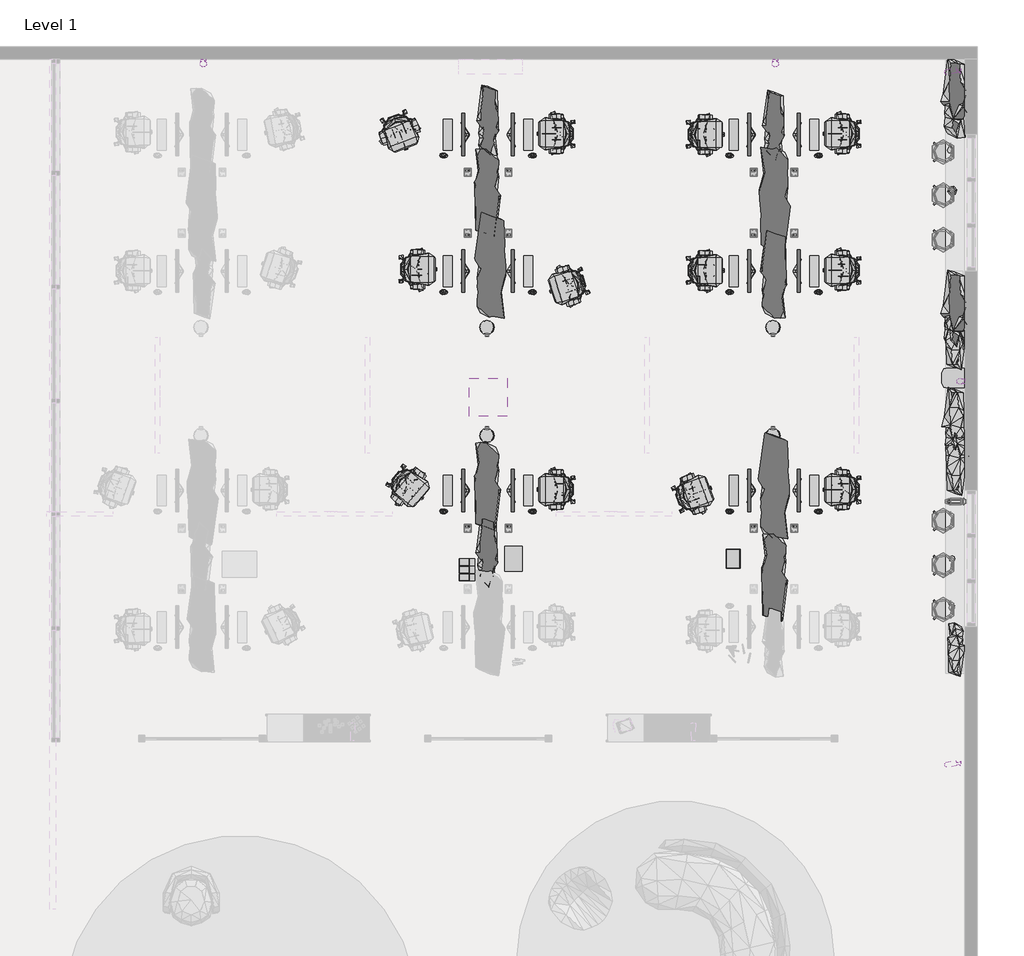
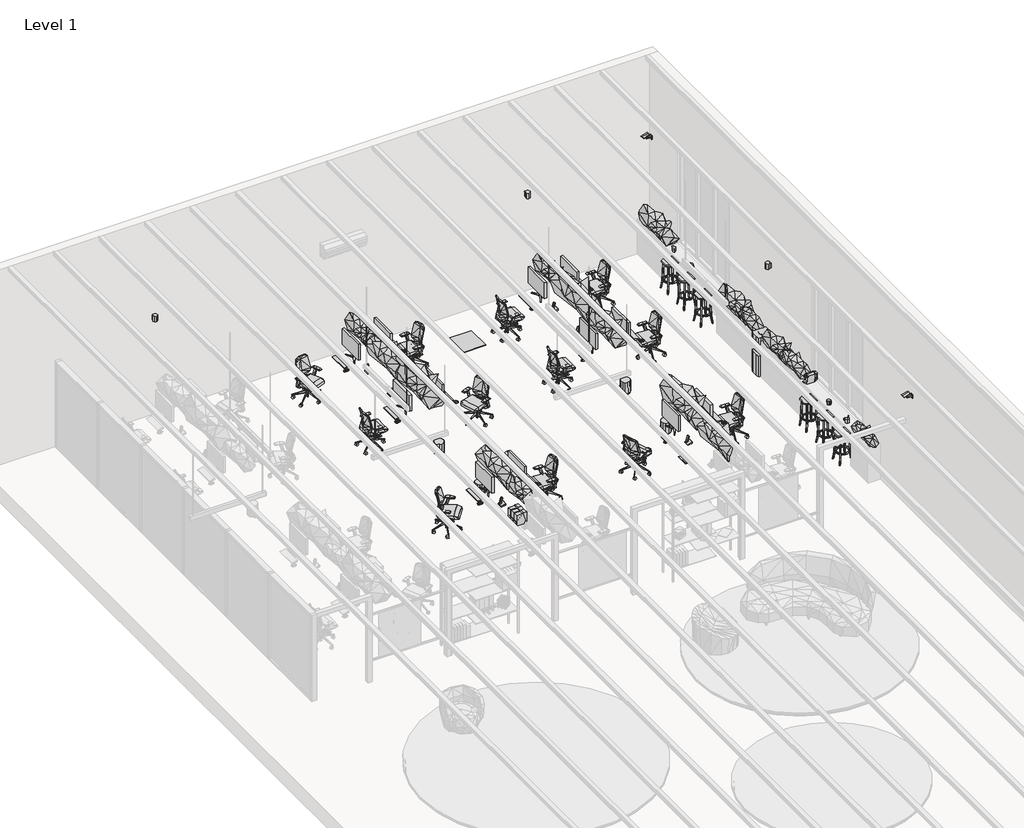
# One storey, part 6 of 6: 79 geographic elements.
"""IFC4 building model written with IfcOpenShell, lengths in millimetres."""

from ifc_helpers import new_model, si_unit, origin, place, context, project, spatial, transform, mapped, element, save
from components import geographic_element_1c3b3942, geographic_element_73b1dc01, geographic_element_349b45b4, geographic_element_266ae1ca, geographic_element_bfbed8a8, geographic_element_5cff998a, geographic_element_8b341069, geographic_element_d4e18414, geographic_element_a34aaa63, geographic_element_61e69f08, enscape_assetdefinition_air_conditioner_001_enscape_db724180, enscape_assetdefinition_coffee_maker_008_enscape_c59bbcd4, enscape_assetdefinition_computer_003_enscape_assetdefinition_33cd5614, enscape_assetdefinition_computer_003_enscape_assetdefinition_0dfb8451, enscape_assetdefinition_copy_machine_002_enscape_0f0c522b, enscape_assetdefinition_cup_001_enscape_assetdefinition_cup_e3f5b286, enscape_assetdefinition_cup_002_coffee_enscape_aa947409, enscape_assetdefinition_cup_003_enscape_assetdefinition_cup_932f1833, enscape_assetdefinition_high_stool_013_enscape_60fb523d, enscape_assetdefinition_office_chair_008_enscape_9297afb8, enscape_assetdefinition_security_camera_003_enscape_78e4a898, enscape_assetdefinition_telephone_002_enscape_9aaeaa57, enscape_assetdefinition_telephone_002_enscape_e00bfed8, enscape_assetdefinition_wall_lamp_005_enscape_8ec44021, enscape_assetdefinition_water_dispenser_001_enscape_70096ad3

model = new_model("IFC4")

# Units and contexts
model_context = context("Model", 3, world=origin())
ifc_project = project(units=[si_unit("LENGTHUNIT", "METRE", prefix="MILLI")], contexts=[model_context])

# Site, building, storey
site = spatial("IfcSite", under=ifc_project)
building = spatial("IfcBuilding", under=site)
storey = spatial("IfcBuildingStorey", under=building, Name="Level 1", Elevation=0.0)

# Geographic elements
placement = place(None, origin())
geographic_element_shape = geographic_element_1c3b3942(model_context)
element("IfcGeographicElement", 1, ObjectType="Enscape AssetDefinition - Clipboard 001 : Enscape AssetDefinition - Clipboard 001", at=placement, inside=storey, context=model_context, shape_type="MappedRepresentation", body=[
    mapped(geographic_element_shape, transform((21499.7422419, 8348.1135808, 700.0), x_axis=(1.0, 0.0, 0.0), y_axis=(0.0, 1.0, 0.0), z_axis=(0.0, 0.0, 1.0))),
])
geographic_element_2_shape = geographic_element_73b1dc01(model_context)
element("IfcGeographicElement", 2, ObjectType="Enscape AssetDefinition - Garbage Can 006 Bathroom : Enscape AssetDefinition - Garbage Can 006 Bathroom", at=placement, inside=storey, context=model_context, shape_type="MappedRepresentation", body=[
    mapped(geographic_element_2_shape, transform((17625.3362243, 10285.264194, 0.0), x_axis=(-1.0, 0.0, 0.0), y_axis=(0.0, -1.0, 0.0), z_axis=(0.0, 0.0, 1.0))),
])
element("IfcGeographicElement", 3, ObjectType="Enscape AssetDefinition - Garbage Can 006 Bathroom : Enscape AssetDefinition - Garbage Can 006 Bathroom", at=placement, inside=storey, context=model_context, shape_type="MappedRepresentation", body=[
    mapped(geographic_element_2_shape, transform((22125.3362243, 10285.264194, 0.0), x_axis=(-1.0, 0.0, 0.0), y_axis=(0.0, -1.0, 0.0), z_axis=(0.0, 0.0, 1.0))),
])
element("IfcGeographicElement", 4, ObjectType="Enscape AssetDefinition - Garbage Can 006 Bathroom : Enscape AssetDefinition - Garbage Can 006 Bathroom", at=placement, inside=storey, context=model_context, shape_type="MappedRepresentation", body=[
    mapped(geographic_element_2_shape, transform((22125.3362243, 11985.264194, 0.0), x_axis=(1.0, 0.0, 0.0), y_axis=(0.0, 1.0, 0.0), z_axis=(0.0, 0.0, 1.0))),
])
element("IfcGeographicElement", 5, ObjectType="Enscape AssetDefinition - Garbage Can 006 Bathroom : Enscape AssetDefinition - Garbage Can 006 Bathroom", at=placement, inside=storey, context=model_context, shape_type="MappedRepresentation", body=[
    mapped(geographic_element_2_shape, transform((17625.3362243, 11985.264194, 0.0), x_axis=(1.0, 0.0, 0.0), y_axis=(0.0, 1.0, 0.0), z_axis=(0.0, 0.0, 1.0))),
])
geographic_element_3_shape = geographic_element_349b45b4(model_context)
element("IfcGeographicElement", 6, ObjectType="Enscape AssetDefinition - Magazine Holder 001 : Enscape AssetDefinition - Magazine Holder 001", at=placement, inside=storey, context=model_context, shape_type="MappedRepresentation", body=[
    mapped(geographic_element_3_shape, transform((17320.3362243, 8038.185194, 700.0), x_axis=(0.0, -1.0, 0.0), y_axis=(1.0, 0.0, 0.0), z_axis=(0.0, 0.0, 1.0))),
])
element("IfcGeographicElement", 7, ObjectType="Enscape AssetDefinition - Magazine Holder 001 : Enscape AssetDefinition - Magazine Holder 001", at=placement, inside=storey, context=model_context, shape_type="MappedRepresentation", body=[
    mapped(geographic_element_3_shape, transform((17320.3362243, 8158.185194, 700.0), x_axis=(0.0, -1.0, 0.0), y_axis=(1.0, 0.0, 0.0), z_axis=(0.0, 0.0, 1.0))),
])
element("IfcGeographicElement", 8, ObjectType="Enscape AssetDefinition - Magazine Holder 001 : Enscape AssetDefinition - Magazine Holder 001", at=placement, inside=storey, context=model_context, shape_type="MappedRepresentation", body=[
    mapped(geographic_element_3_shape, transform((17320.3362243, 8278.185194, 700.0), x_axis=(0.0, -1.0, 0.0), y_axis=(1.0, 0.0, 0.0), z_axis=(0.0, 0.0, 1.0))),
])
geographic_element_4_shape = geographic_element_266ae1ca(model_context)
element("IfcGeographicElement", 9, ObjectType="Enscape AssetDefinition - Potted Plant 250 Snake Plant : Enscape AssetDefinition - Potted Plant 250 Snake Plant", at=placement, inside=storey, context=model_context, shape_type="MappedRepresentation", body=[
    mapped(geographic_element_4_shape, transform((17688.5371117, 12972.3835529, 950.0), x_axis=(-1.0, 0.0, 0.0), y_axis=(0.0, -1.0, 0.0), z_axis=(0.0, 0.0, 1.0))),
])
element("IfcGeographicElement", 10, ObjectType="Enscape AssetDefinition - Potted Plant 250 Snake Plant : Enscape AssetDefinition - Potted Plant 250 Snake Plant", at=placement, inside=storey, context=model_context, shape_type="MappedRepresentation", body=[
    mapped(geographic_element_4_shape, transform((22148.8901711, 13980.460863, 950.0), x_axis=(1.0, 0.0, 0.0), y_axis=(0.0, 1.0, 0.0), z_axis=(0.0, 0.0, 1.0))),
])
element("IfcGeographicElement", 11, ObjectType="Enscape AssetDefinition - Potted Plant 250 Snake Plant : Enscape AssetDefinition - Potted Plant 250 Snake Plant", at=placement, inside=storey, context=model_context, shape_type="MappedRepresentation", body=[
    mapped(geographic_element_4_shape, transform((22148.8901711, 9500.460863, 950.0), x_axis=(-1.0, 0.0, 0.0), y_axis=(0.0, -1.0, 0.0), z_axis=(0.0, 0.0, 1.0))),
])
geographic_element_5_shape = geographic_element_bfbed8a8(model_context)
element("IfcGeographicElement", 12, ObjectType="Enscape AssetDefinition - Potted Plant 250 Snake Plant : Enscape AssetDefinition - Potted Plant 250 Snake Plant 4", at=placement, inside=storey, context=model_context, shape_type="MappedRepresentation", body=[
    mapped(geographic_element_5_shape, transform((17632.5949459, 8453.3311255, 950.0), x_axis=(-1.0, 0.0, 0.0), y_axis=(0.0, -1.0, 0.0), z_axis=(0.0, 0.0, 1.0))),
])
element("IfcGeographicElement", 13, ObjectType="Enscape AssetDefinition - Potted Plant 250 Snake Plant : Enscape AssetDefinition - Potted Plant 250 Snake Plant 4", at=placement, inside=storey, context=model_context, shape_type="MappedRepresentation", body=[
    mapped(geographic_element_5_shape, transform((22145.3362243, 15170.3788606, 950.0), x_axis=(-1.0, 0.0, 0.0), y_axis=(0.0, -1.0, 0.0), z_axis=(0.0, 0.0, 1.0))),
])
element("IfcGeographicElement", 14, ObjectType="Enscape AssetDefinition - Potted Plant 250 Snake Plant : Enscape AssetDefinition - Potted Plant 250 Snake Plant 4", at=placement, inside=storey, context=model_context, shape_type="MappedRepresentation", body=[
    mapped(geographic_element_5_shape, transform((17650.3362243, 15250.3788606, 950.0), x_axis=(-1.0, 0.0, 0.0), y_axis=(0.0, -1.0, 0.0), z_axis=(0.0, 0.0, 1.0))),
])
geographic_element_6_shape = geographic_element_5cff998a(model_context)
element("IfcGeographicElement", 15, ObjectType="Enscape AssetDefinition - Potted Plant 250 Snake Plant : Enscape AssetDefinition - Potted Plant 250 Snake Plant 5", at=placement, inside=storey, context=model_context, shape_type="MappedRepresentation", body=[
    mapped(geographic_element_6_shape, transform((17627.4385223, 14090.489344, 950.0), x_axis=(1.0, 0.0, 0.0), y_axis=(0.0, 1.0, 0.0), z_axis=(0.0, 0.0, 1.0))),
])
element("IfcGeographicElement", 16, ObjectType="Enscape AssetDefinition - Potted Plant 250 Snake Plant : Enscape AssetDefinition - Potted Plant 250 Snake Plant 5", at=placement, inside=storey, context=model_context, shape_type="MappedRepresentation", body=[
    mapped(geographic_element_6_shape, transform((17627.4385223, 9470.489344, 950.0), x_axis=(1.0, 0.0, 0.0), y_axis=(0.0, 1.0, 0.0), z_axis=(0.0, 0.0, 1.0))),
])
element("IfcGeographicElement", 17, ObjectType="Enscape AssetDefinition - Potted Plant 250 Snake Plant : Enscape AssetDefinition - Potted Plant 250 Snake Plant 5", at=placement, inside=storey, context=model_context, shape_type="MappedRepresentation", body=[
    mapped(geographic_element_6_shape, transform((22145.3684933, 8034.9937716, 950.0), x_axis=(1.0, 0.0, 0.0), y_axis=(0.0, 1.0, 0.0), z_axis=(0.0, 0.0, 1.0))),
])
element("IfcGeographicElement", 18, ObjectType="Enscape AssetDefinition - Potted Plant 250 Snake Plant : Enscape AssetDefinition - Potted Plant 250 Snake Plant 5", at=placement, inside=storey, context=model_context, shape_type="MappedRepresentation", body=[
    mapped(geographic_element_6_shape, transform((22145.3684933, 12834.9937716, 950.0), x_axis=(-1.0, 0.0, 0.0), y_axis=(0.0, -1.0, 0.0), z_axis=(0.0, 0.0, 1.0))),
])
geographic_element_7_shape = geographic_element_8b341069(model_context)
element("IfcGeographicElement", 19, ObjectType="Enscape AssetDefinition - Potted Plant 250 Snake Plant : Enscape AssetDefinition - Potted Plant 250 Snake Plant 7", at=placement, inside=storey, context=model_context, shape_type="MappedRepresentation", body=[
    mapped(geographic_element_7_shape, transform((24995.3362243, 15605.264194, 845.0), x_axis=(-1.0, 0.0, 0.0), y_axis=(0.0, -1.0, 0.0), z_axis=(0.0, 0.0, 1.0))),
])
element("IfcGeographicElement", 20, ObjectType="Enscape AssetDefinition - Potted Plant 250 Snake Plant : Enscape AssetDefinition - Potted Plant 250 Snake Plant 7", at=placement, inside=storey, context=model_context, shape_type="MappedRepresentation", body=[
    mapped(geographic_element_7_shape, transform((24995.3362243, 12269.8213335, 845.0), x_axis=(-1.0, 0.0, 0.0), y_axis=(0.0, -1.0, 0.0), z_axis=(0.0, 0.0, 1.0))),
])
geographic_element_8_shape = geographic_element_d4e18414(model_context)
element("IfcGeographicElement", 21, ObjectType="Enscape AssetDefinition - Potted Plant 250 Snake Plant : Enscape AssetDefinition - Potted Plant 250 Snake Plant 8", at=placement, inside=storey, context=model_context, shape_type="MappedRepresentation", body=[
    mapped(geographic_element_8_shape, transform((24995.3362243, 11842.4213335, 845.0), x_axis=(1.0, 0.0, 0.0), y_axis=(0.0, 1.0, 0.0), z_axis=(0.0, 0.0, 1.0))),
])
element("IfcGeographicElement", 22, ObjectType="Enscape AssetDefinition - Potted Plant 250 Snake Plant : Enscape AssetDefinition - Potted Plant 250 Snake Plant 8", at=placement, inside=storey, context=model_context, shape_type="MappedRepresentation", body=[
    mapped(geographic_element_8_shape, transform((24985.0392279, 10520.364194, 845.0), x_axis=(-1.0, 0.0, 0.0), y_axis=(0.0, -1.0, 0.0), z_axis=(0.0, 0.0, 1.0))),
])
element("IfcGeographicElement", 23, ObjectType="Enscape AssetDefinition - Potted Plant 250 Snake Plant : Enscape AssetDefinition - Potted Plant 250 Snake Plant 8", at=placement, inside=storey, context=model_context, shape_type="MappedRepresentation", body=[
    mapped(geographic_element_8_shape, transform((25005.0392279, 9862.964194, 845.0), x_axis=(1.0, 0.0, 0.0), y_axis=(0.0, 1.0, 0.0), z_axis=(0.0, 0.0, 1.0))),
])
geographic_element_9_shape = geographic_element_a34aaa63(model_context)
element("IfcGeographicElement", 24, ObjectType="Enscape AssetDefinition - Potted Plant 250 Snake Plant : Enscape AssetDefinition - Potted Plant 250 Snake Plant 9", at=placement, inside=storey, context=model_context, shape_type="MappedRepresentation", body=[
    mapped(geographic_element_9_shape, transform((25002.1245983, 6908.387846, 845.0), x_axis=(1.0, 0.0, 0.0), y_axis=(0.0, 1.0, 0.0), z_axis=(0.0, 0.0, 1.0))),
])
geographic_element_10_shape = geographic_element_61e69f08(model_context)
element("IfcGeographicElement", 25, ObjectType="Enscape AssetDefinition - Cup 005 Tea : Enscape AssetDefinition - Cup 005 Tea", at=placement, inside=storey, context=model_context, shape_type="MappedRepresentation", body=[
    mapped(geographic_element_10_shape, transform((24950.3362243, 14137.4213335, 900.0), x_axis=(-0.3090169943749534, -0.9510565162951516, 0.0), y_axis=(0.9510565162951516, -0.3090169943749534, 0.0), z_axis=(0.0, 0.0, 1.0))),
])
enscape_assetdefinition_air_conditioner_001_enscape_shape = enscape_assetdefinition_air_conditioner_001_enscape_db724180(model_context)
element("IfcGeographicElement", 26, ObjectType="Enscape AssetDefinition - Air Conditioner 001 : Enscape AssetDefinition - Air Conditioner 001", at=placement, inside=storey, context=model_context, shape_type="MappedRepresentation", body=[
    mapped(enscape_assetdefinition_air_conditioner_001_enscape_shape, transform((17645.3362243, 10885.264194, 3500.0), x_axis=(0.0, -1.0, 0.0), y_axis=(1.0, 0.0, 0.0), z_axis=(0.0, 0.0, 1.0))),
])
enscape_assetdefinition_coffee_maker_008_enscape_shape = enscape_assetdefinition_coffee_maker_008_enscape_c59bbcd4(model_context)
element("IfcGeographicElement", 27, ObjectType="Enscape AssetDefinition - Coffee Maker 008 : Enscape AssetDefinition - Coffee Maker 008", at=placement, inside=storey, context=model_context, shape_type="MappedRepresentation", body=[
    mapped(enscape_assetdefinition_coffee_maker_008_enscape_shape, transform((24998.0893745, 9246.5105582, 900.0), x_axis=(0.0, -1.0, 0.0), y_axis=(1.0, 0.0, 0.0), z_axis=(0.0, 0.0, 1.0))),
])
enscape_assetdefinition_computer_003_enscape_assetdefinition_shape = enscape_assetdefinition_computer_003_enscape_assetdefinition_33cd5614(model_context)
element("IfcGeographicElement", 28, ObjectType="Enscape AssetDefinition - Computer 003 : Enscape AssetDefinition - Computer 003", at=placement, inside=storey, context=model_context, shape_type="MappedRepresentation", body=[
    mapped(enscape_assetdefinition_computer_003_enscape_assetdefinition_shape, transform((17243.1923544, 12869.4721238, 700.0), x_axis=(0.0, -1.0, 0.0), y_axis=(1.0, 0.0, 0.0), z_axis=(0.0, 0.0, 1.0))),
])
element("IfcGeographicElement", 29, ObjectType="Enscape AssetDefinition - Computer 003 : Enscape AssetDefinition - Computer 003", at=placement, inside=storey, context=model_context, shape_type="MappedRepresentation", body=[
    mapped(enscape_assetdefinition_computer_003_enscape_assetdefinition_shape, transform((17243.1923544, 15019.4721238, 700.0), x_axis=(0.0, -1.0, 0.0), y_axis=(1.0, 0.0, 0.0), z_axis=(0.0, 0.0, 1.0))),
])
element("IfcGeographicElement", 30, ObjectType="Enscape AssetDefinition - Computer 003 : Enscape AssetDefinition - Computer 003", at=placement, inside=storey, context=model_context, shape_type="MappedRepresentation", body=[
    mapped(enscape_assetdefinition_computer_003_enscape_assetdefinition_shape, transform((17243.1923544, 9419.4721238, 700.0), x_axis=(0.0, -1.0, 0.0), y_axis=(1.0, 0.0, 0.0), z_axis=(0.0, 0.0, 1.0))),
])
element("IfcGeographicElement", 31, ObjectType="Enscape AssetDefinition - Computer 003 : Enscape AssetDefinition - Computer 003", at=placement, inside=storey, context=model_context, shape_type="MappedRepresentation", body=[
    mapped(enscape_assetdefinition_computer_003_enscape_assetdefinition_shape, transform((21743.1923544, 9419.4721238, 700.0), x_axis=(0.0, -1.0, 0.0), y_axis=(1.0, 0.0, 0.0), z_axis=(0.0, 0.0, 1.0))),
])
element("IfcGeographicElement", 32, ObjectType="Enscape AssetDefinition - Computer 003 : Enscape AssetDefinition - Computer 003", at=placement, inside=storey, context=model_context, shape_type="MappedRepresentation", body=[
    mapped(enscape_assetdefinition_computer_003_enscape_assetdefinition_shape, transform((21743.1923544, 12869.4721238, 700.0), x_axis=(0.0, -1.0, 0.0), y_axis=(1.0, 0.0, 0.0), z_axis=(0.0, 0.0, 1.0))),
])
element("IfcGeographicElement", 33, ObjectType="Enscape AssetDefinition - Computer 003 : Enscape AssetDefinition - Computer 003", at=placement, inside=storey, context=model_context, shape_type="MappedRepresentation", body=[
    mapped(enscape_assetdefinition_computer_003_enscape_assetdefinition_shape, transform((21743.1923544, 15019.4721238, 700.0), x_axis=(0.0, -1.0, 0.0), y_axis=(1.0, 0.0, 0.0), z_axis=(0.0, 0.0, 1.0))),
])
enscape_assetdefinition_computer_003_enscape_assetdefinition_2_shape = enscape_assetdefinition_computer_003_enscape_assetdefinition_0dfb8451(model_context)
element("IfcGeographicElement", 34, ObjectType="Enscape AssetDefinition - Computer 003 : Enscape AssetDefinition - Computer 003", at=placement, inside=storey, context=model_context, shape_type="MappedRepresentation", body=[
    mapped(enscape_assetdefinition_computer_003_enscape_assetdefinition_2_shape, transform((22547.4800943, 9419.4721238, 700.0), x_axis=(0.0, -1.0, 0.0), y_axis=(1.0, 0.0, 0.0), z_axis=(0.0, 0.0, 1.0))),
])
element("IfcGeographicElement", 35, ObjectType="Enscape AssetDefinition - Computer 003 : Enscape AssetDefinition - Computer 003", at=placement, inside=storey, context=model_context, shape_type="MappedRepresentation", body=[
    mapped(enscape_assetdefinition_computer_003_enscape_assetdefinition_2_shape, transform((22547.4800943, 12869.4721238, 700.0), x_axis=(0.0, -1.0, 0.0), y_axis=(1.0, 0.0, 0.0), z_axis=(0.0, 0.0, 1.0))),
])
element("IfcGeographicElement", 36, ObjectType="Enscape AssetDefinition - Computer 003 : Enscape AssetDefinition - Computer 003", at=placement, inside=storey, context=model_context, shape_type="MappedRepresentation", body=[
    mapped(enscape_assetdefinition_computer_003_enscape_assetdefinition_2_shape, transform((22547.4800943, 15019.4721238, 700.0), x_axis=(0.0, -1.0, 0.0), y_axis=(1.0, 0.0, 0.0), z_axis=(0.0, 0.0, 1.0))),
])
element("IfcGeographicElement", 37, ObjectType="Enscape AssetDefinition - Computer 003 : Enscape AssetDefinition - Computer 003", at=placement, inside=storey, context=model_context, shape_type="MappedRepresentation", body=[
    mapped(enscape_assetdefinition_computer_003_enscape_assetdefinition_2_shape, transform((18047.4800943, 12869.4721238, 700.0), x_axis=(0.0, -1.0, 0.0), y_axis=(1.0, 0.0, 0.0), z_axis=(0.0, 0.0, 1.0))),
])
element("IfcGeographicElement", 38, ObjectType="Enscape AssetDefinition - Computer 003 : Enscape AssetDefinition - Computer 003", at=placement, inside=storey, context=model_context, shape_type="MappedRepresentation", body=[
    mapped(enscape_assetdefinition_computer_003_enscape_assetdefinition_2_shape, transform((18047.4800943, 15019.4721238, 700.0), x_axis=(0.0, -1.0, 0.0), y_axis=(1.0, 0.0, 0.0), z_axis=(0.0, 0.0, 1.0))),
])
element("IfcGeographicElement", 39, ObjectType="Enscape AssetDefinition - Computer 003 : Enscape AssetDefinition - Computer 003", at=placement, inside=storey, context=model_context, shape_type="MappedRepresentation", body=[
    mapped(enscape_assetdefinition_computer_003_enscape_assetdefinition_2_shape, transform((18047.4800943, 9419.4721238, 700.0), x_axis=(0.0, -1.0, 0.0), y_axis=(1.0, 0.0, 0.0), z_axis=(0.0, 0.0, 1.0))),
])
enscape_assetdefinition_copy_machine_002_enscape_shape = enscape_assetdefinition_copy_machine_002_enscape_0f0c522b(model_context)
element("IfcGeographicElement", 40, ObjectType="Enscape AssetDefinition - Copy Machine 002 : Enscape AssetDefinition - Copy Machine 002", at=placement, inside=storey, context=model_context, shape_type="MappedRepresentation", body=[
    mapped(enscape_assetdefinition_copy_machine_002_enscape_shape, transform((18045.3362243, 8345.264194, 700.0), x_axis=(0.0, 1.0, 0.0), y_axis=(-1.0, 0.0, 0.0), z_axis=(0.0, 0.0, 1.0))),
])
enscape_assetdefinition_cup_001_enscape_assetdefinition_cup_shape = enscape_assetdefinition_cup_001_enscape_assetdefinition_cup_e3f5b286(model_context)
element("IfcGeographicElement", 41, ObjectType="Enscape AssetDefinition - Cup 001 : Enscape AssetDefinition - Cup 001", at=placement, inside=storey, context=model_context, shape_type="MappedRepresentation", body=[
    mapped(enscape_assetdefinition_cup_001_enscape_assetdefinition_cup_shape, transform((24945.3362243, 8345.264194, 900.0), x_axis=(0.0, -1.0, 0.0), y_axis=(1.0, 0.0, 0.0), z_axis=(0.0, 0.0, 1.0))),
])
enscape_assetdefinition_cup_002_coffee_enscape_shape = enscape_assetdefinition_cup_002_coffee_enscape_aa947409(model_context)
element("IfcGeographicElement", 42, ObjectType="Enscape AssetDefinition - Cup 002 Coffee : Enscape AssetDefinition - Cup 002 Coffee", at=placement, inside=storey, context=model_context, shape_type="MappedRepresentation", body=[
    mapped(enscape_assetdefinition_cup_002_coffee_enscape_shape, transform((24939.9138526, 7578.4732713, 900.0), x_axis=(-0.49999999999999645, 0.8660254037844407, 0.0), y_axis=(-0.8660254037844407, -0.49999999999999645, 0.0), z_axis=(0.0, 0.0, 1.0))),
])
enscape_assetdefinition_cup_003_enscape_assetdefinition_cup_shape = enscape_assetdefinition_cup_003_enscape_assetdefinition_cup_932f1833(model_context)
element("IfcGeographicElement", 43, ObjectType="Enscape AssetDefinition - Cup 003 : Enscape AssetDefinition - Cup 003", at=placement, inside=storey, context=model_context, shape_type="MappedRepresentation", body=[
    mapped(enscape_assetdefinition_cup_003_enscape_assetdefinition_cup_shape, transform((24915.3362243, 14777.4213335, 900.0), x_axis=(0.0, 1.0, 0.0), y_axis=(-1.0, 0.0, 0.0), z_axis=(0.0, 0.0, 1.0))),
])
enscape_assetdefinition_high_stool_013_enscape_shape = enscape_assetdefinition_high_stool_013_enscape_60fb523d(model_context)
element("IfcGeographicElement", 44, ObjectType="Enscape AssetDefinition - High Stool 013 : Enscape AssetDefinition - High Stool 013", at=placement, inside=storey, context=model_context, shape_type="MappedRepresentation", body=[
    mapped(enscape_assetdefinition_high_stool_013_enscape_shape, transform((24805.3362243, 14745.264194, 0.0), x_axis=(0.0, 1.0, 0.0), y_axis=(-1.0, 0.0, 0.0), z_axis=(0.0, 0.0, 1.0))),
])
element("IfcGeographicElement", 45, ObjectType="Enscape AssetDefinition - High Stool 013 : Enscape AssetDefinition - High Stool 013", at=placement, inside=storey, context=model_context, shape_type="MappedRepresentation", body=[
    mapped(enscape_assetdefinition_high_stool_013_enscape_shape, transform((24805.3362243, 14065.264194, 0.0), x_axis=(0.0, 1.0, 0.0), y_axis=(-1.0, 0.0, 0.0), z_axis=(0.0, 0.0, 1.0))),
])
element("IfcGeographicElement", 46, ObjectType="Enscape AssetDefinition - High Stool 013 : Enscape AssetDefinition - High Stool 013", at=placement, inside=storey, context=model_context, shape_type="MappedRepresentation", body=[
    mapped(enscape_assetdefinition_high_stool_013_enscape_shape, transform((24805.3362243, 13365.264194, 0.0), x_axis=(0.0, 1.0, 0.0), y_axis=(-1.0, 0.0, 0.0), z_axis=(0.0, 0.0, 1.0))),
])
element("IfcGeographicElement", 47, ObjectType="Enscape AssetDefinition - High Stool 013 : Enscape AssetDefinition - High Stool 013", at=placement, inside=storey, context=model_context, shape_type="MappedRepresentation", body=[
    mapped(enscape_assetdefinition_high_stool_013_enscape_shape, transform((24805.3362243, 8945.264194, 0.0), x_axis=(0.0, 1.0, 0.0), y_axis=(-1.0, 0.0, 0.0), z_axis=(0.0, 0.0, 1.0))),
])
element("IfcGeographicElement", 48, ObjectType="Enscape AssetDefinition - High Stool 013 : Enscape AssetDefinition - High Stool 013", at=placement, inside=storey, context=model_context, shape_type="MappedRepresentation", body=[
    mapped(enscape_assetdefinition_high_stool_013_enscape_shape, transform((24805.3362243, 8245.264194, 0.0), x_axis=(0.0, 1.0, 0.0), y_axis=(-1.0, 0.0, 0.0), z_axis=(0.0, 0.0, 1.0))),
])
element("IfcGeographicElement", 49, ObjectType="Enscape AssetDefinition - High Stool 013 : Enscape AssetDefinition - High Stool 013", at=placement, inside=storey, context=model_context, shape_type="MappedRepresentation", body=[
    mapped(enscape_assetdefinition_high_stool_013_enscape_shape, transform((24805.3362243, 7545.264194, 0.0), x_axis=(0.0, 1.0, 0.0), y_axis=(-1.0, 0.0, 0.0), z_axis=(0.0, 0.0, 1.0))),
])
enscape_assetdefinition_office_chair_008_enscape_shape = enscape_assetdefinition_office_chair_008_enscape_9297afb8(model_context)
element("IfcGeographicElement", 50, ObjectType="Enscape AssetDefinition - Office Chair 008 : Enscape AssetDefinition - Office Chair 008", at=placement, inside=storey, context=model_context, shape_type="MappedRepresentation", body=[
    mapped(enscape_assetdefinition_office_chair_008_enscape_shape, transform((21031.8976116, 12881.284837, 0.0), x_axis=(0.0, 1.0, 0.0), y_axis=(-1.0, 0.0, 0.0), z_axis=(0.0, 0.0, 1.0))),
])
element("IfcGeographicElement", 51, ObjectType="Enscape AssetDefinition - Office Chair 008 : Enscape AssetDefinition - Office Chair 008", at=placement, inside=storey, context=model_context, shape_type="MappedRepresentation", body=[
    mapped(enscape_assetdefinition_office_chair_008_enscape_shape, transform((21031.8976116, 15021.284837, 0.0), x_axis=(0.0, 1.0, 0.0), y_axis=(-1.0, 0.0, 0.0), z_axis=(0.0, 0.0, 1.0))),
])
element("IfcGeographicElement", 52, ObjectType="Enscape AssetDefinition - Office Chair 008 : Enscape AssetDefinition - Office Chair 008", at=placement, inside=storey, context=model_context, shape_type="MappedRepresentation", body=[
    mapped(enscape_assetdefinition_office_chair_008_enscape_shape, transform((20850.0790453, 9354.6533003, 0.0), x_axis=(-0.34202014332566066, 0.9396926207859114, 0.0), y_axis=(-0.9396926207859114, -0.34202014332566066, 0.0), z_axis=(0.0, 0.0, 1.0))),
])
element("IfcGeographicElement", 53, ObjectType="Enscape AssetDefinition - Office Chair 008 : Enscape AssetDefinition - Office Chair 008", at=placement, inside=storey, context=model_context, shape_type="MappedRepresentation", body=[
    mapped(enscape_assetdefinition_office_chair_008_enscape_shape, transform((16369.5744521, 9500.6426162, 0.0), x_axis=(0.6427876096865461, 0.7660444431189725, 0.0), y_axis=(-0.7660444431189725, 0.6427876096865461, 0.0), z_axis=(0.0, 0.0, 1.0))),
])
element("IfcGeographicElement", 54, ObjectType="Enscape AssetDefinition - Office Chair 008 : Enscape AssetDefinition - Office Chair 008", at=placement, inside=storey, context=model_context, shape_type="MappedRepresentation", body=[
    mapped(enscape_assetdefinition_office_chair_008_enscape_shape, transform((16511.145353, 12899.1770985, 0.0), x_axis=(0.0, 1.0, 0.0), y_axis=(-1.0, 0.0, 0.0), z_axis=(0.0, 0.0, 1.0))),
])
element("IfcGeographicElement", 55, ObjectType="Enscape AssetDefinition - Office Chair 008 : Enscape AssetDefinition - Office Chair 008", at=placement, inside=storey, context=model_context, shape_type="MappedRepresentation", body=[
    mapped(enscape_assetdefinition_office_chair_008_enscape_shape, transform((16240.9180624, 15088.2742122, 0.0), x_axis=(0.9335804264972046, 0.35836794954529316, 0.0), y_axis=(-0.35836794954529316, 0.9335804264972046, 0.0), z_axis=(0.0, 0.0, 1.0))),
])
element("IfcGeographicElement", 56, ObjectType="Enscape AssetDefinition - Office Chair 008 : Enscape AssetDefinition - Office Chair 008", at=placement, inside=storey, context=model_context, shape_type="MappedRepresentation", body=[
    mapped(enscape_assetdefinition_office_chair_008_enscape_shape, transform((18745.3362243, 15033.264194, 0.0), x_axis=(0.0, -1.0, 0.0), y_axis=(1.0, 0.0, 0.0), z_axis=(0.0, 0.0, 1.0))),
])
element("IfcGeographicElement", 57, ObjectType="Enscape AssetDefinition - Office Chair 008 : Enscape AssetDefinition - Office Chair 008", at=placement, inside=storey, context=model_context, shape_type="MappedRepresentation", body=[
    mapped(enscape_assetdefinition_office_chair_008_enscape_shape, transform((18930.3530991, 12648.8627117, 0.0), x_axis=(0.30901699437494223, -0.9510565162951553, 0.0), y_axis=(0.9510565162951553, 0.30901699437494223, 0.0), z_axis=(0.0, 0.0, 1.0))),
])
element("IfcGeographicElement", 58, ObjectType="Enscape AssetDefinition - Office Chair 008 : Enscape AssetDefinition - Office Chair 008", at=placement, inside=storey, context=model_context, shape_type="MappedRepresentation", body=[
    mapped(enscape_assetdefinition_office_chair_008_enscape_shape, transform((18745.3362243, 9435.264194, 0.0), x_axis=(0.0, -1.0, 0.0), y_axis=(1.0, 0.0, 0.0), z_axis=(0.0, 0.0, 1.0))),
])
element("IfcGeographicElement", 59, ObjectType="Enscape AssetDefinition - Office Chair 008 : Enscape AssetDefinition - Office Chair 008", at=placement, inside=storey, context=model_context, shape_type="MappedRepresentation", body=[
    mapped(enscape_assetdefinition_office_chair_008_enscape_shape, transform((23245.3362243, 9433.264194, 0.0), x_axis=(0.0, -1.0, 0.0), y_axis=(1.0, 0.0, 0.0), z_axis=(0.0, 0.0, 1.0))),
])
element("IfcGeographicElement", 60, ObjectType="Enscape AssetDefinition - Office Chair 008 : Enscape AssetDefinition - Office Chair 008", at=placement, inside=storey, context=model_context, shape_type="MappedRepresentation", body=[
    mapped(enscape_assetdefinition_office_chair_008_enscape_shape, transform((23245.3362243, 12885.264194, 0.0), x_axis=(0.0, -1.0, 0.0), y_axis=(1.0, 0.0, 0.0), z_axis=(0.0, 0.0, 1.0))),
])
element("IfcGeographicElement", 61, ObjectType="Enscape AssetDefinition - Office Chair 008 : Enscape AssetDefinition - Office Chair 008", at=placement, inside=storey, context=model_context, shape_type="MappedRepresentation", body=[
    mapped(enscape_assetdefinition_office_chair_008_enscape_shape, transform((23245.3362243, 15033.264194, 0.0), x_axis=(0.0, -1.0, 0.0), y_axis=(1.0, 0.0, 0.0), z_axis=(0.0, 0.0, 1.0))),
])
enscape_assetdefinition_security_camera_003_enscape_shape = enscape_assetdefinition_security_camera_003_enscape_78e4a898(model_context)
element("IfcGeographicElement", 62, ObjectType="Enscape AssetDefinition - Security Camera 003 : Enscape AssetDefinition - Security Camera 003", at=placement, inside=storey, context=model_context, shape_type="MappedRepresentation", body=[
    mapped(enscape_assetdefinition_security_camera_003_enscape_shape, transform((25085.3362243, 16022.9966747, 3015.1851261), x_axis=(0.0, -1.0, 0.0), y_axis=(1.0, 0.0, 0.0), z_axis=(0.0, 0.0, 1.0))),
])
element("IfcGeographicElement", 63, ObjectType="Enscape AssetDefinition - Security Camera 003 : Enscape AssetDefinition - Security Camera 003", at=placement, inside=storey, context=model_context, shape_type="MappedRepresentation", body=[
    mapped(enscape_assetdefinition_security_camera_003_enscape_shape, transform((25085.3362243, 5122.9966747, 3015.1851261), x_axis=(0.0, -1.0, 0.0), y_axis=(1.0, 0.0, 0.0), z_axis=(0.0, 0.0, 1.0))),
])
enscape_assetdefinition_telephone_002_enscape_shape = enscape_assetdefinition_telephone_002_enscape_9aaeaa57(model_context)
element("IfcGeographicElement", 64, ObjectType="Enscape AssetDefinition - Telephone 002 : Enscape AssetDefinition - Telephone 002", at=placement, inside=storey, context=model_context, shape_type="MappedRepresentation", body=[
    mapped(enscape_assetdefinition_telephone_002_enscape_shape, transform((17323.6972783, 8825.1827418, 700.0), x_axis=(0.0, -1.0, 0.0), y_axis=(1.0, 0.0, 0.0), z_axis=(0.0, 0.0, 1.0))),
])
element("IfcGeographicElement", 65, ObjectType="Enscape AssetDefinition - Telephone 002 : Enscape AssetDefinition - Telephone 002", at=placement, inside=storey, context=model_context, shape_type="MappedRepresentation", body=[
    mapped(enscape_assetdefinition_telephone_002_enscape_shape, transform((21823.6972783, 8825.1827418, 700.0), x_axis=(0.0, -1.0, 0.0), y_axis=(1.0, 0.0, 0.0), z_axis=(0.0, 0.0, 1.0))),
])
element("IfcGeographicElement", 66, ObjectType="Enscape AssetDefinition - Telephone 002 : Enscape AssetDefinition - Telephone 002", at=placement, inside=storey, context=model_context, shape_type="MappedRepresentation", body=[
    mapped(enscape_assetdefinition_telephone_002_enscape_shape, transform((21823.6972783, 14425.1827418, 700.0), x_axis=(0.0, -1.0, 0.0), y_axis=(1.0, 0.0, 0.0), z_axis=(0.0, 0.0, 1.0))),
])
element("IfcGeographicElement", 67, ObjectType="Enscape AssetDefinition - Telephone 002 : Enscape AssetDefinition - Telephone 002", at=placement, inside=storey, context=model_context, shape_type="MappedRepresentation", body=[
    mapped(enscape_assetdefinition_telephone_002_enscape_shape, transform((22466.9751704, 13469.6599252, 700.0), x_axis=(0.0, 1.0, 0.0), y_axis=(-1.0, 0.0, 0.0), z_axis=(0.0, 0.0, 1.0))),
])
element("IfcGeographicElement", 68, ObjectType="Enscape AssetDefinition - Telephone 002 : Enscape AssetDefinition - Telephone 002", at=placement, inside=storey, context=model_context, shape_type="MappedRepresentation", body=[
    mapped(enscape_assetdefinition_telephone_002_enscape_shape, transform((17323.6972783, 14425.1827418, 700.0), x_axis=(0.0, -1.0, 0.0), y_axis=(1.0, 0.0, 0.0), z_axis=(0.0, 0.0, 1.0))),
])
element("IfcGeographicElement", 69, ObjectType="Enscape AssetDefinition - Telephone 002 : Enscape AssetDefinition - Telephone 002", at=placement, inside=storey, context=model_context, shape_type="MappedRepresentation", body=[
    mapped(enscape_assetdefinition_telephone_002_enscape_shape, transform((17966.9751704, 13469.6599252, 700.0), x_axis=(0.0, 1.0, 0.0), y_axis=(-1.0, 0.0, 0.0), z_axis=(0.0, 0.0, 1.0))),
])
enscape_assetdefinition_telephone_002_enscape_2_shape = enscape_assetdefinition_telephone_002_enscape_e00bfed8(model_context)
element("IfcGeographicElement", 70, ObjectType="Enscape AssetDefinition - Telephone 002 : Enscape AssetDefinition - Telephone 002", at=placement, inside=storey, context=model_context, shape_type="MappedRepresentation", body=[
    mapped(enscape_assetdefinition_telephone_002_enscape_2_shape, transform((17966.9751704, 8825.1827418, 700.0), x_axis=(0.0, -1.0, 0.0), y_axis=(1.0, 0.0, 0.0), z_axis=(0.0, 0.0, 1.0))),
])
element("IfcGeographicElement", 71, ObjectType="Enscape AssetDefinition - Telephone 002 : Enscape AssetDefinition - Telephone 002", at=placement, inside=storey, context=model_context, shape_type="MappedRepresentation", body=[
    mapped(enscape_assetdefinition_telephone_002_enscape_2_shape, transform((22466.9751704, 8825.1827418, 700.0), x_axis=(0.0, -1.0, 0.0), y_axis=(1.0, 0.0, 0.0), z_axis=(0.0, 0.0, 1.0))),
])
element("IfcGeographicElement", 72, ObjectType="Enscape AssetDefinition - Telephone 002 : Enscape AssetDefinition - Telephone 002", at=placement, inside=storey, context=model_context, shape_type="MappedRepresentation", body=[
    mapped(enscape_assetdefinition_telephone_002_enscape_2_shape, transform((21823.6972783, 13469.6599252, 700.0), x_axis=(0.0, 1.0, 0.0), y_axis=(-1.0, 0.0, 0.0), z_axis=(0.0, 0.0, 1.0))),
])
element("IfcGeographicElement", 73, ObjectType="Enscape AssetDefinition - Telephone 002 : Enscape AssetDefinition - Telephone 002", at=placement, inside=storey, context=model_context, shape_type="MappedRepresentation", body=[
    mapped(enscape_assetdefinition_telephone_002_enscape_2_shape, transform((22466.9751704, 14425.1827418, 700.0), x_axis=(0.0, -1.0, 0.0), y_axis=(1.0, 0.0, 0.0), z_axis=(0.0, 0.0, 1.0))),
])
element("IfcGeographicElement", 74, ObjectType="Enscape AssetDefinition - Telephone 002 : Enscape AssetDefinition - Telephone 002", at=placement, inside=storey, context=model_context, shape_type="MappedRepresentation", body=[
    mapped(enscape_assetdefinition_telephone_002_enscape_2_shape, transform((17323.6972783, 13469.6599252, 700.0), x_axis=(0.0, 1.0, 0.0), y_axis=(-1.0, 0.0, 0.0), z_axis=(0.0, 0.0, 1.0))),
])
element("IfcGeographicElement", 75, ObjectType="Enscape AssetDefinition - Telephone 002 : Enscape AssetDefinition - Telephone 002", at=placement, inside=storey, context=model_context, shape_type="MappedRepresentation", body=[
    mapped(enscape_assetdefinition_telephone_002_enscape_2_shape, transform((17966.9751704, 14425.1827418, 700.0), x_axis=(0.0, -1.0, 0.0), y_axis=(1.0, 0.0, 0.0), z_axis=(0.0, 0.0, 1.0))),
])
enscape_assetdefinition_wall_lamp_005_enscape_shape = enscape_assetdefinition_wall_lamp_005_enscape_8ec44021(model_context)
element("IfcGeographicElement", 76, ObjectType="Enscape AssetDefinition - Wall Lamp 005 : Enscape AssetDefinition - Wall Lamp 005", at=placement, inside=storey, context=model_context, shape_type="MappedRepresentation", body=[
    mapped(enscape_assetdefinition_wall_lamp_005_enscape_shape, transform((25145.3362243, 11137.764194, 2700.0), x_axis=(0.0, -1.0, 0.0), y_axis=(1.0, 0.0, 0.0), z_axis=(0.0, 0.0, 1.0))),
])
element("IfcGeographicElement", 77, ObjectType="Enscape AssetDefinition - Wall Lamp 005 : Enscape AssetDefinition - Wall Lamp 005", at=placement, inside=storey, context=model_context, shape_type="MappedRepresentation", body=[
    mapped(enscape_assetdefinition_wall_lamp_005_enscape_shape, transform((22165.3362243, 16206.8193645, 2500.0), x_axis=(1.0, 0.0, 0.0), y_axis=(0.0, 1.0, 0.0), z_axis=(0.0, 0.0, 1.0))),
])
element("IfcGeographicElement", 78, ObjectType="Enscape AssetDefinition - Wall Lamp 005 : Enscape AssetDefinition - Wall Lamp 005", at=placement, inside=storey, context=model_context, shape_type="MappedRepresentation", body=[
    mapped(enscape_assetdefinition_wall_lamp_005_enscape_shape, transform((13165.3362243, 16206.8193645, 2500.0), x_axis=(1.0, 0.0, 0.0), y_axis=(0.0, 1.0, 0.0), z_axis=(0.0, 0.0, 1.0))),
])
enscape_assetdefinition_water_dispenser_001_enscape_shape = enscape_assetdefinition_water_dispenser_001_enscape_70096ad3(model_context)
element("IfcGeographicElement", 79, ObjectType="Enscape AssetDefinition - Water Dispenser 001 : Enscape AssetDefinition - Water Dispenser 001", at=placement, inside=storey, context=model_context, shape_type="MappedRepresentation", body=[
    mapped(enscape_assetdefinition_water_dispenser_001_enscape_shape, transform((24964.8762183, 11190.6249427, 0.0), x_axis=(0.0, -1.0, 0.0), y_axis=(1.0, 0.0, 0.0), z_axis=(0.0, 0.0, 1.0))),
])

save(model, "model.ifc")
